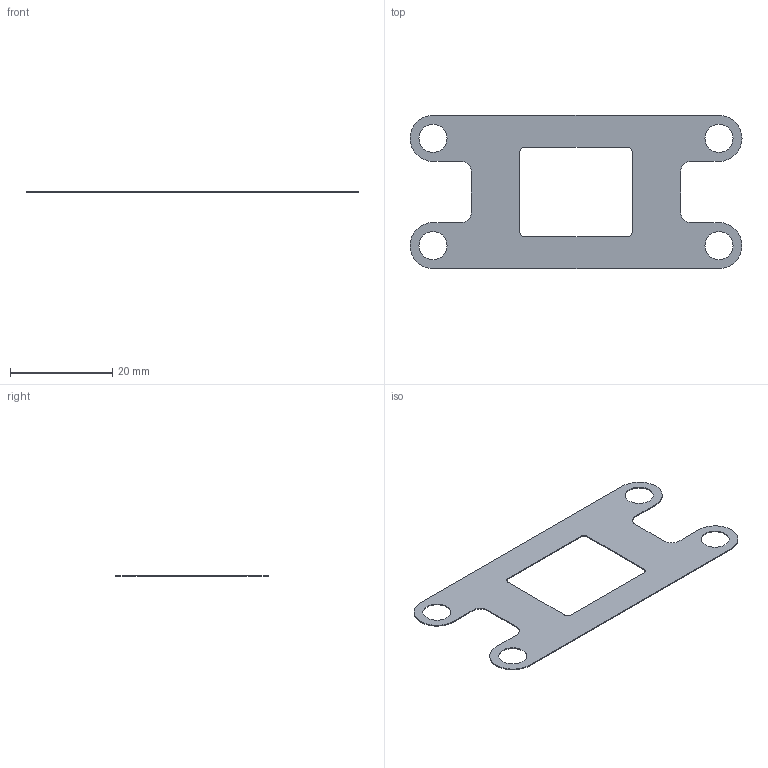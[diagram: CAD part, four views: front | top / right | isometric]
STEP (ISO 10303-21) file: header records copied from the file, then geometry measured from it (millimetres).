
FILE_DESCRIPTION((''),'2;1');
FILE_NAME('2503644a.stp','2001-10-26T14:28:53',(''),(''),'AutoCAD STEP 2000i','AutoCAD 2000i',', , ');
FILE_SCHEMA(('CONFIG_CONTROL_DESIGN'));
Length unit declared in the file: millimetre
Products named in the file (2): 2503644A; NB
Assembly tree (1 placements, depth 2):
  2503644A
    NB
Bounding box: 65 x 30 x 0.18 mm (x, y, z)
Volume: 204.7 mm3; surface area: 2368 mm2
Topology: 1 solids, 1 shells, 46 faces, 132 edges, 88 vertices
Faces by surface type: cylinder 32, plane 14
Entity records: 1669 total; most frequent: DIRECTION 292, CARTESIAN_POINT 268, ORIENTED_EDGE 264, EDGE_CURVE 132, AXIS2_PLACEMENT_3D 112, VERTEX_POINT 88, VECTOR 68, LINE 68
